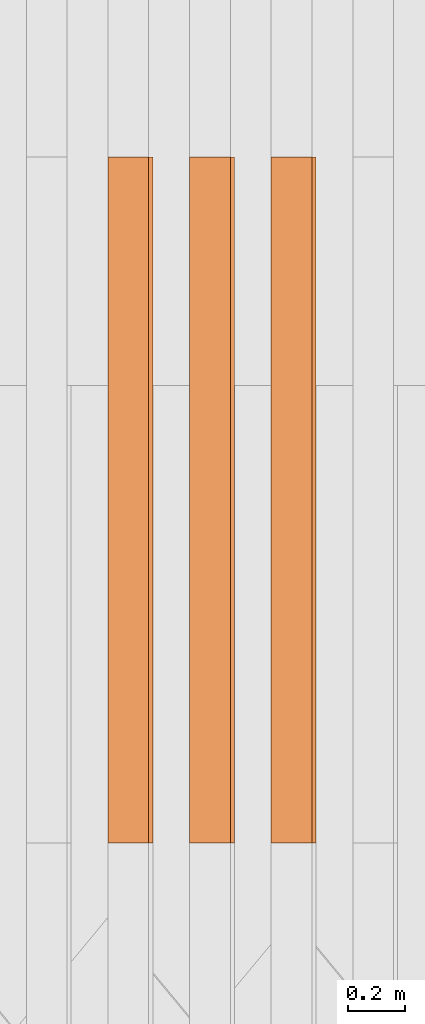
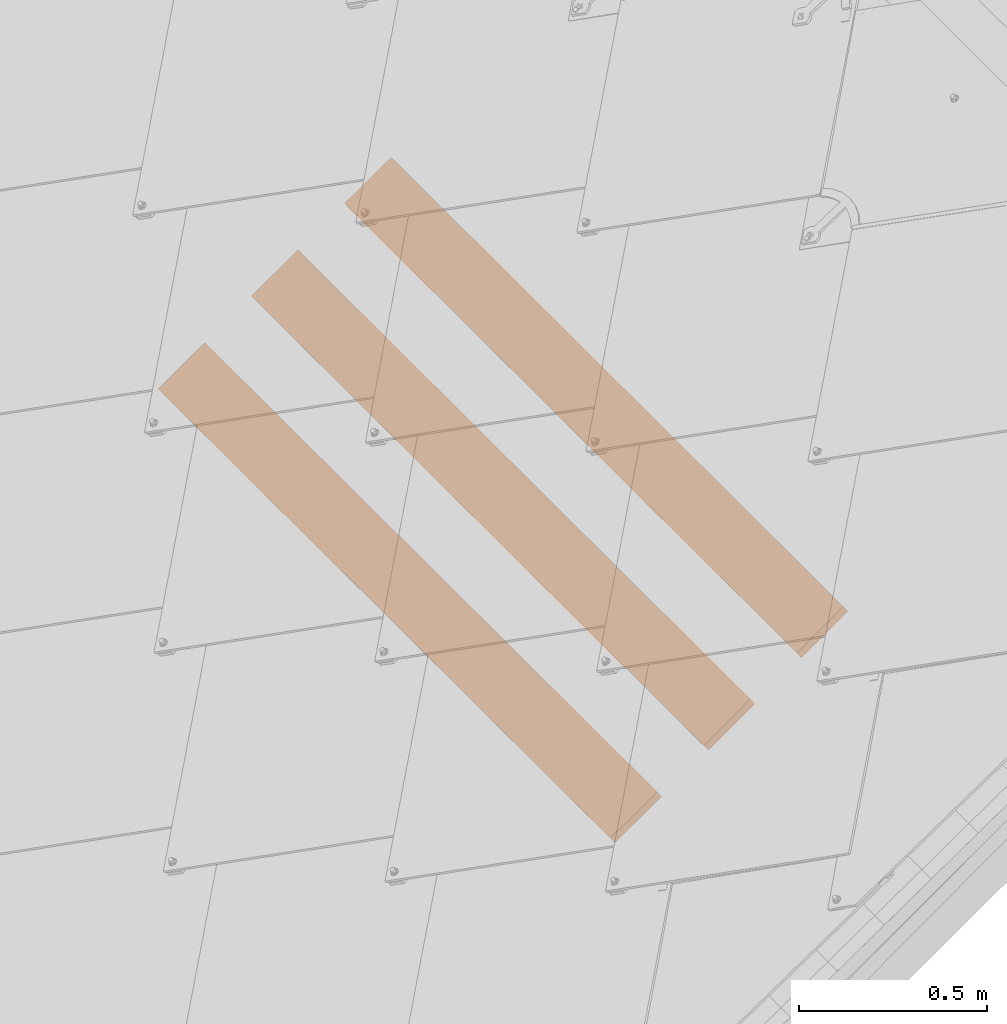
# One storey, part 23 of 151: 3 proxies, 1 element without a shape of its own.
"""IFC2X3 building model written with IfcOpenShell, lengths in millimetres."""

from ifc_helpers import new_model, entity, si_unit, converted_unit, derived_unit, direction, frame, frame_2d, origin, place, context, subcontext, project, spatial, rectangle, extrude, source, transform, mapped, material, type_object, type_shapes, element, aggregate, save


model = new_model("IFC2X3")

# Units and contexts
model_context = context("Model", 3, precision=0.01, world=origin(), true_north=direction((6.12303176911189e-17, 1.0)))
body_context = subcontext(model_context, "Body", "Model", "MODEL_VIEW")
ifc_project = project(units=[si_unit("LENGTHUNIT", "METRE", prefix="MILLI"), si_unit("AREAUNIT", "SQUARE_METRE"), si_unit("VOLUMEUNIT", "CUBIC_METRE"), converted_unit("PLANEANGLEUNIT", "DEGREE", entity("IfcRatioMeasure", 0.0174532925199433), si_unit("PLANEANGLEUNIT", "RADIAN"), dimensions=[0, 0, 0, 0, 0, 0, 0]), si_unit("MASSUNIT", "GRAM", prefix="KILO"), derived_unit("MASSDENSITYUNIT", [(si_unit("MASSUNIT", "GRAM", prefix="KILO"), 1), (si_unit("LENGTHUNIT", "METRE"), -3)]), si_unit("TIMEUNIT", "SECOND"), si_unit("FREQUENCYUNIT", "HERTZ"), si_unit("THERMODYNAMICTEMPERATUREUNIT", "DEGREE_CELSIUS"), derived_unit("THERMALTRANSMITTANCEUNIT", [(si_unit("MASSUNIT", "GRAM", prefix="KILO"), 1), (si_unit("THERMODYNAMICTEMPERATUREUNIT", "KELVIN"), -1), (si_unit("TIMEUNIT", "SECOND"), -3)]), derived_unit("VOLUMETRICFLOWRATEUNIT", [(si_unit("LENGTHUNIT", "METRE"), 3), (si_unit("TIMEUNIT", "SECOND"), -1)]), si_unit("ELECTRICCURRENTUNIT", "AMPERE"), si_unit("ELECTRICVOLTAGEUNIT", "VOLT"), si_unit("POWERUNIT", "WATT"), si_unit("FORCEUNIT", "NEWTON", prefix="KILO"), si_unit("ILLUMINANCEUNIT", "LUX"), si_unit("LUMINOUSFLUXUNIT", "LUMEN"), si_unit("LUMINOUSINTENSITYUNIT", "CANDELA"), derived_unit("USERDEFINED", [(si_unit("MASSUNIT", "GRAM", prefix="KILO"), -1), (si_unit("LENGTHUNIT", "METRE"), -2), (si_unit("TIMEUNIT", "SECOND"), 3), (si_unit("LUMINOUSFLUXUNIT", "LUMEN"), 1)]), derived_unit("LINEARVELOCITYUNIT", [(si_unit("LENGTHUNIT", "METRE"), 1), (si_unit("TIMEUNIT", "SECOND"), -1)]), si_unit("PRESSUREUNIT", "PASCAL"), derived_unit("USERDEFINED", [(si_unit("LENGTHUNIT", "METRE"), -2), (si_unit("MASSUNIT", "GRAM", prefix="KILO"), 1), (si_unit("TIMEUNIT", "SECOND"), -2)])], contexts=[model_context])

# Site, building, storey
site_placement = place(None, origin())
site = spatial("IfcSite", under=ifc_project, at=site_placement, Name="Default", CompositionType="ELEMENT")
building_placement = place(site_placement, origin())
building = spatial("IfcBuilding", under=site, at=building_placement, CompositionType="ELEMENT")
storey_placement = place(building_placement, origin())
storey = spatial("IfcBuildingStorey", under=building, at=storey_placement, Name="Level 1", CompositionType="ELEMENT", Elevation=0.0)

# Assembly, proxies
assembly_placement = place(storey_placement, origin())
assembly = element("IfcElementAssembly", 1, at=assembly_placement, inside=storey, Name="Structural Framing Assembly:Roof Construction Assembly", ObjectType="Structural Framing Assembly:Roof Construction Assembly", AssemblyPlace="NOTDEFINED", PredefinedType="USERDEFINED")
ifc_material = material(Name="Wood - Generic - Wood For Showcase")
building_element_proxy_type_1 = type_object("IfcBuildingElementProxyType", Name="Structural Framing 15", PredefinedType="NOTDEFINED", material=ifc_material)
shared_shape_1 = source(origin(), body_context, "Body", "SweptSolid", [
    extrude(rectangle(XDim=24.9999999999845, YDim=174.344679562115, at=frame_2d((-1.77635683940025e-13, -4.54747350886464e-13), x_axis=(0.0, 1.0))), frame((1128.20180147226, 1525.55080214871, 2760.23940055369), z_axis=(0.0, 1.0, 0.0), x_axis=(-0.819152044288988, 0.0, -0.573576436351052)), (0.0, 0.0, 1.0), 2400.0),
])
type_shapes(building_element_proxy_type_1, [shared_shape_1])
proxy_1_placement = place(assembly_placement, frame((-1370.66013563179, -7270.0, -1000.0)))
proxy_1 = element("IfcBuildingElementProxy", 2, at=proxy_1_placement, type_object=building_element_proxy_type_1, material=ifc_material, Name="Structural Framing 68:Structural Framing 15", ObjectType="Structural Framing 68:Structural Framing 15", context=body_context, shape_type="MappedRepresentation", body=[
    mapped(shared_shape_1, transform((0.0, 0.0, 0.0), scale=1.0)),
])
building_element_proxy_type_2 = type_object("IfcBuildingElementProxyType", Name="Structural Framing 15", PredefinedType="NOTDEFINED", material=ifc_material)
shared_shape_2 = source(origin(), body_context, "Body", "SweptSolid", [
    extrude(rectangle(XDim=24.9999999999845, YDim=174.344679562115, at=frame_2d((-1.77635683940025e-13, -4.54747350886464e-13), x_axis=(0.0, 1.0))), frame((1128.20180147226, 1525.55080214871, 2760.23940055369), z_axis=(0.0, 1.0, 0.0), x_axis=(-0.819152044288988, 0.0, -0.573576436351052)), (0.0, 0.0, 1.0), 2400.0),
])
type_shapes(building_element_proxy_type_2, [shared_shape_2])
proxy_2_placement = place(assembly_placement, frame((-1656.28973698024, -7270.0, -1200.0)))
proxy_2 = element("IfcBuildingElementProxy", 3, at=proxy_2_placement, type_object=building_element_proxy_type_2, material=ifc_material, Name="Structural Framing 78:Structural Framing 15", ObjectType="Structural Framing 78:Structural Framing 15", context=body_context, shape_type="MappedRepresentation", body=[
    mapped(shared_shape_2, transform((0.0, 0.0, 0.0), scale=1.0)),
])
building_element_proxy_type_3 = type_object("IfcBuildingElementProxyType", Name="Structural Framing 15", PredefinedType="NOTDEFINED", material=ifc_material)
shared_shape_3 = source(origin(), body_context, "Body", "SweptSolid", [
    extrude(rectangle(XDim=24.9999999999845, YDim=174.344679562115, at=frame_2d((-1.77635683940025e-13, -4.54747350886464e-13), x_axis=(0.0, 1.0))), frame((1128.20180147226, 1525.55080214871, 2760.23940055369), z_axis=(0.0, 1.0, 0.0), x_axis=(-0.819152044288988, 0.0, -0.573576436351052)), (0.0, 0.0, 1.0), 2400.0),
])
type_shapes(building_element_proxy_type_3, [shared_shape_3])
proxy_3_placement = place(assembly_placement, frame((-1941.91933832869, -7270.0, -1400.0)))
proxy_3 = element("IfcBuildingElementProxy", 4, at=proxy_3_placement, type_object=building_element_proxy_type_3, material=ifc_material, Name="Structural Framing 88:Structural Framing 15", ObjectType="Structural Framing 88:Structural Framing 15", context=body_context, shape_type="MappedRepresentation", body=[
    mapped(shared_shape_3, transform((0.0, 0.0, 0.0), scale=1.0)),
])
aggregate(assembly, [proxy_1, proxy_2, proxy_3])

save(model, "model.ifc")
